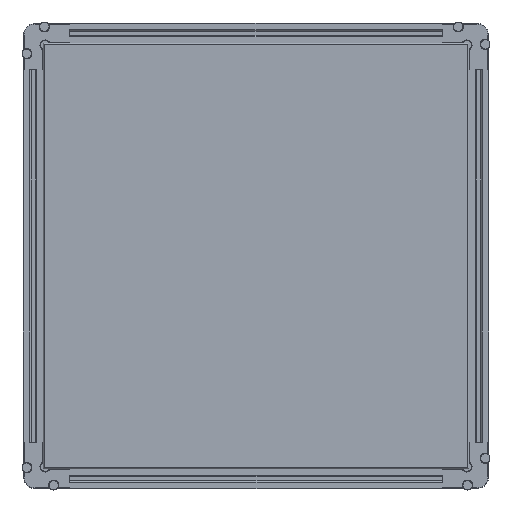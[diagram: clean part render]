
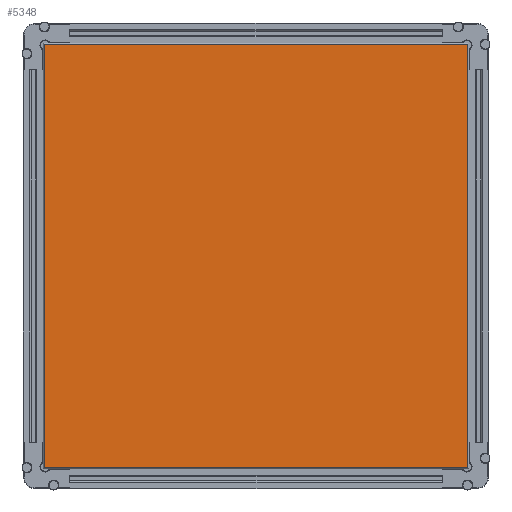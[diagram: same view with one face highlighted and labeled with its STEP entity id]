
A CAD part, top view. The second image highlights one B-rep face of the part: STEP entity #5348.
In plain terms, the highlighted planar face has unit normal (0, 0, 1).
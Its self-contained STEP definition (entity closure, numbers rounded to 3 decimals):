
#105=LINE('',#7541,#717);
#106=LINE('',#7543,#718);
#107=LINE('',#7545,#719);
#108=LINE('',#7546,#720);
#717=VECTOR('',#6106,364.);
#718=VECTOR('',#6107,364.);
#719=VECTOR('',#6108,364.);
#720=VECTOR('',#6109,364.);
#1374=FACE_OUTER_BOUND('',#1677,.T.);
#1677=EDGE_LOOP('',(#3354,#3355,#3356,#3357));
#2112=VERTEX_POINT('',#7539);
#2113=VERTEX_POINT('',#7540);
#2114=VERTEX_POINT('',#7542);
#2115=VERTEX_POINT('',#7544);
#2593=EDGE_CURVE('',#2112,#2113,#105,.T.);
#2594=EDGE_CURVE('',#2114,#2112,#106,.T.);
#2595=EDGE_CURVE('',#2115,#2114,#107,.T.);
#2596=EDGE_CURVE('',#2113,#2115,#108,.T.);
#3354=ORIENTED_EDGE('',*,*,#2593,.F.);
#3355=ORIENTED_EDGE('',*,*,#2594,.F.);
#3356=ORIENTED_EDGE('',*,*,#2595,.F.);
#3357=ORIENTED_EDGE('',*,*,#2596,.F.);
#4821=PLANE('',#5653);
#5348=ADVANCED_FACE('',(#1374),#4821,.T.);
#5653=AXIS2_PLACEMENT_3D('',#7538,#6104,#6105);
#6104=DIRECTION('center_axis',(0.,0.,
1.));
#6105=DIRECTION('ref_axis',(1.,0.,0.));
#6106=DIRECTION('',(-1.,0.,0.));
#6107=DIRECTION('',(0.,-1.,0.));
#6108=DIRECTION('',(1.,0.,0.));
#6109=DIRECTION('',(0.,1.,0.));
#7538=CARTESIAN_POINT('Origin',(0.,0.,
35.));
#7539=CARTESIAN_POINT('',(182.,-182.,35.));
#7540=CARTESIAN_POINT('',(-182.,-182.,35.));
#7541=CARTESIAN_POINT('',(91.5,-182.,35.));
#7542=CARTESIAN_POINT('',(182.,182.,35.));
#7543=CARTESIAN_POINT('',(182.,91.5,35.));
#7544=CARTESIAN_POINT('',(-182.,182.,35.));
#7545=CARTESIAN_POINT('',(-91.5,182.,35.));
#7546=CARTESIAN_POINT('',(-182.,-91.5,35.));
